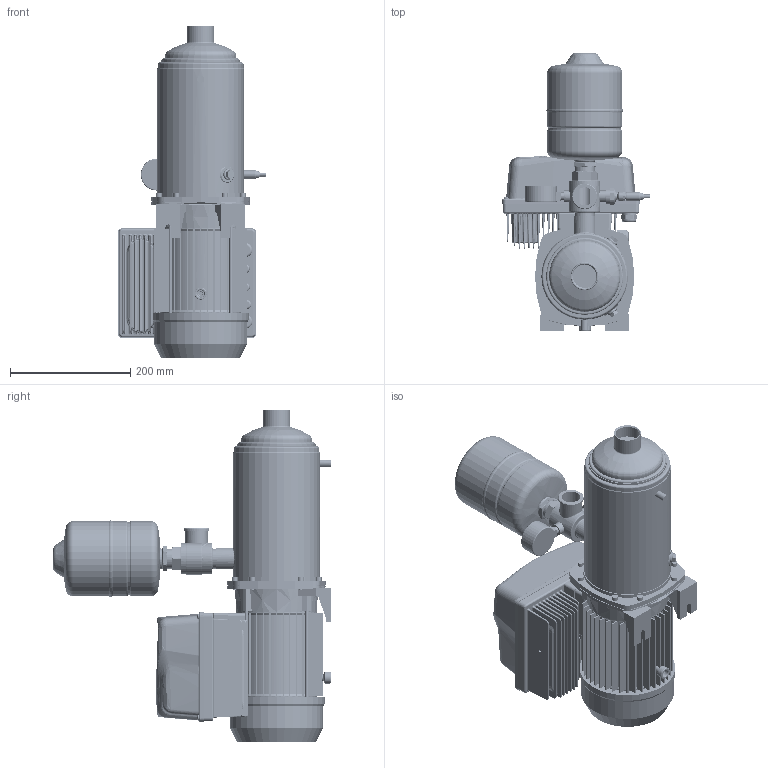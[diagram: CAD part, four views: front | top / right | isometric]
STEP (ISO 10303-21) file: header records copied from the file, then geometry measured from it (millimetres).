
FILE_DESCRIPTION((''),'2;1');
FILE_NAME('1GPE_MATRIX_5-9T_2-2_ESPM_ASM','2024-12-02T15:04:43',('Utente'),('"Ebara Pumps Europe S.p.A"'),'CREO PARAMETRIC BY PTC INC, 2022124','CREO PARAMETRIC BY PTC INC, 2022124','');
FILE_SCHEMA(('AUTOMOTIVE_DESIGN { 1 0 10303 214 1 1 1 1 }'));
Length unit declared in the file: millimetre
Products named in the file (14): EP_MATRIX_5-9T_2-2_IE3; EP_MATRIX_5-9T_2-2_ASM; ADATTATORE_E-SPD_MEC80-90-100; E-SPD_ADATTATORE_MEC80-90-100_ASM; BACK_E-SPD_PLUS_2200-4000; COVER_E-SPD_PLUS_2200-4000; COM_E-SPDM_MEC80-90-100_ORIZ_ASM; RACC_5_VIE_NR_1_A304; TRASD_ASHCROFT_M12_GEN; CABLE_M12_FEMALE; TRASD_ASHCROFT_10B_MP_362331051_ASM; MAN_RAD_D50_10BAR_361600160; VASO_ESPANSIONE_2L_GWS; 1GPE_MATRIX_5-9T_2-2_ESPM_ASM
Assembly tree (13 placements, depth 3):
  1GPE_MATRIX_5-9T_2-2_ESPM_ASM
    EP_MATRIX_5-9T_2-2_ASM
      EP_MATRIX_5-9T_2-2_IE3
    E-SPD_ADATTATORE_MEC80-90-100_ASM
      ADATTATORE_E-SPD_MEC80-90-100
    COM_E-SPDM_MEC80-90-100_ORIZ_ASM
      BACK_E-SPD_PLUS_2200-4000
      COVER_E-SPD_PLUS_2200-4000
    RACC_5_VIE_NR_1_A304
    TRASD_ASHCROFT_10B_MP_362331051_ASM
      TRASD_ASHCROFT_M12_GEN
      CABLE_M12_FEMALE
    MAN_RAD_D50_10BAR_361600160
    VASO_ESPANSIONE_2L_GWS
Bounding box: 246.19 x 461.11 x 551.8 mm (x, y, z)
Volume: 5400014.8 mm3; surface area: 1380993.2 mm2
Topology: 91 solids, 512 shells, 12014 faces, 30526 edges, 18120 vertices
Faces by surface type: plane 6004, cylinder 2632, sphere 1047, bspline 948, cone 482, torus 466, extrusion 435
Entity records: 488932 total; most frequent: CARTESIAN_POINT 173665, ORIENTED_EDGE 56217, DIRECTION 53535, EDGE_CURVE 29049, VERTEX_POINT 18000, VECTOR 17861, AXIS2_PLACEMENT_3D 17818, LINE 17426
